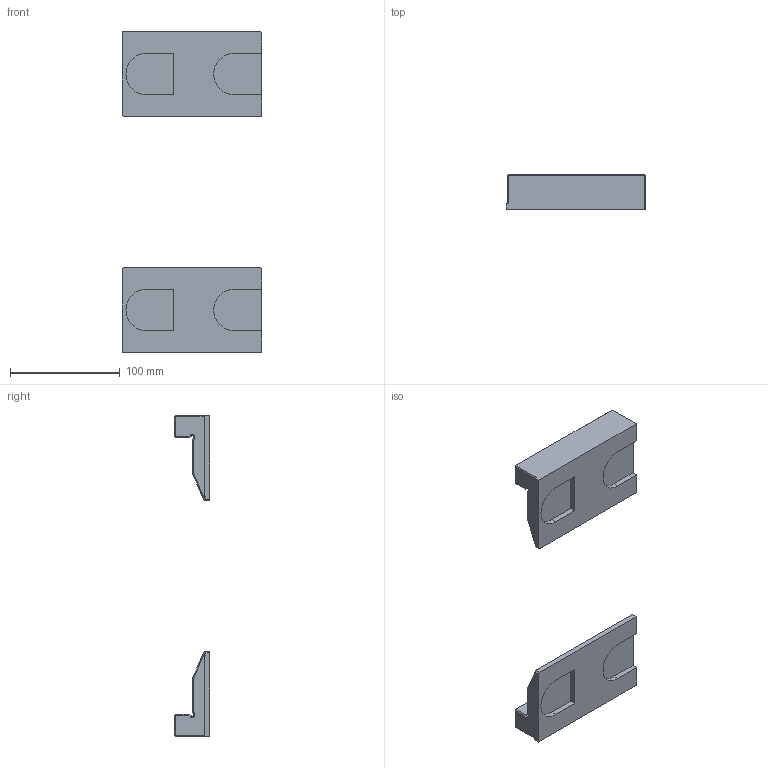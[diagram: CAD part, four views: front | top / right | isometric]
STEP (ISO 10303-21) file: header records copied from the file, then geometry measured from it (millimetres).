
FILE_DESCRIPTION (( 'STEP AP214' ), '1' );
FILE_NAME ('81450.STEP', '2020-10-27T13:23:21', ( '' ), ( '' ), 'SwSTEP 2.0', 'SolidWorks 2019', '' );
FILE_SCHEMA (( 'AUTOMOTIVE_DESIGN' ));
Length unit declared in the file: millimetre
Products named in the file (3): 81450; Aufsatzstufenbacke 86_81450-08; Aufsatzstufenbacke 86_81450-09
Assembly tree (2 placements, depth 2):
  81450
    Aufsatzstufenbacke 86_81450-09
    Aufsatzstufenbacke 86_81450-08
Bounding box: 127 x 32 x 292.01 mm (x, y, z)
Volume: 324765.3 mm3; surface area: 61410.6 mm2
Topology: 2 solids, 2 shells, 94 faces, 220 edges, 132 vertices
Faces by surface type: plane 81, cylinder 7, cone 6
Entity records: 2747 total; most frequent: CARTESIAN_POINT 451, ORIENTED_EDGE 440, DIRECTION 439, EDGE_CURVE 220, LINE 199, VECTOR 199, VERTEX_POINT 132, AXIS2_PLACEMENT_3D 120
